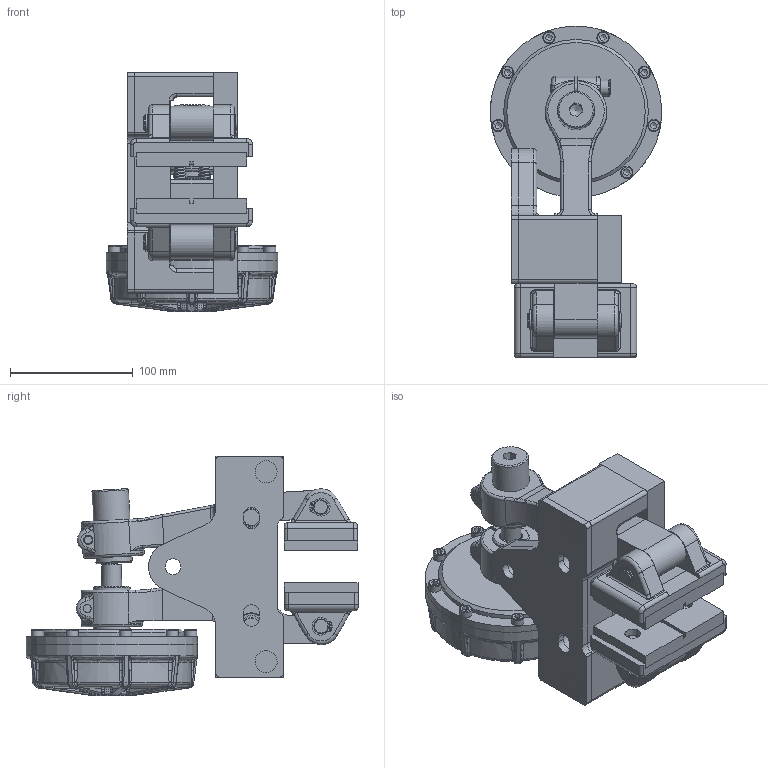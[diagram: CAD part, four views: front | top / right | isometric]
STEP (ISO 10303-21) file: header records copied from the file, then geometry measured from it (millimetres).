
FILE_DESCRIPTION(/* description */ ('','CAx-IF Rec.Pracs.---Representation and Presentation of Product Manufacturing Information (PMI)---4.0---2014-10-13'),/* implementation_level */ '2;1');
FILE_NAME(/* name */ 'X:\INVENTOR\DISEGNI\19_Pinze\STEP x Sito\PNEUM-POSITIVE\19_16_033_04 PPH033_25,4.stp',/* time_stamp */ '2018-02-14T10:23:50+01:00',/* author */ ('stefano'),/* organization */ (''),/* preprocessor_version */ 'ST-DEVELOPER v17',/* originating_system */ 'Autodesk Inventor 2018',/* authorisation */ '');
FILE_SCHEMA (('AP242_MANAGED_MODEL_BASED_3D_ENGINEERING_MIM_LF { 1 0 10303 442 1 1 4 }'));
Products named in the file (1): 19_16_033_04 PPH033_25,4_Substitute_2
Bounding box: 140 x 271 x 195.1 mm (x, y, z)
Volume: 2069516.6 mm3; surface area: 262763.8 mm2
Topology: 1 solids, 1 shells, 1422 faces, 3832 edges, 2447 vertices
Faces by surface type: plane 561, cylinder 381, bspline 280, torus 113, cone 86, sphere 1
Full cylindrical faces by diameter (mm): 1.7 x18, 5 x1, 6 x4, 6.5 x4, 6.647 x1, 8 x2, 8.5 x2, 9.5 x2, 10 x10, 11.5 x4, 12 x15, 13 x9, 13.4 x6, 13.5 x2, 14 x12, 14.95 x1, 16 x6, 16.5 x4, 19 x1, 21 x3, 22.6 x1, 30 x2, 35 x1, 85 x1, 118 x1, 140 x2
Entity records: 58524 total; most frequent: CARTESIAN_POINT 23156, ORIENTED_EDGE 7574, DIRECTION 6645, EDGE_CURVE 3787, AXIS2_PLACEMENT_3D 2601, VERTEX_POINT 2447, EDGE_LOOP 1559, LINE 1443
